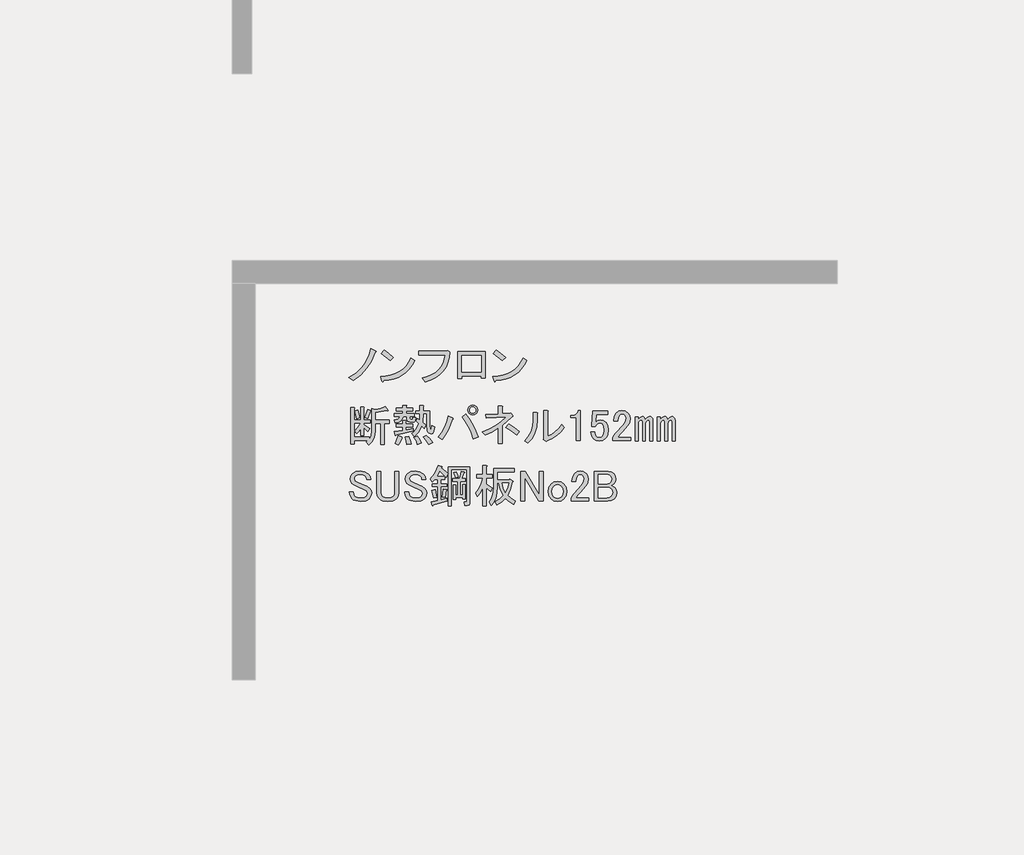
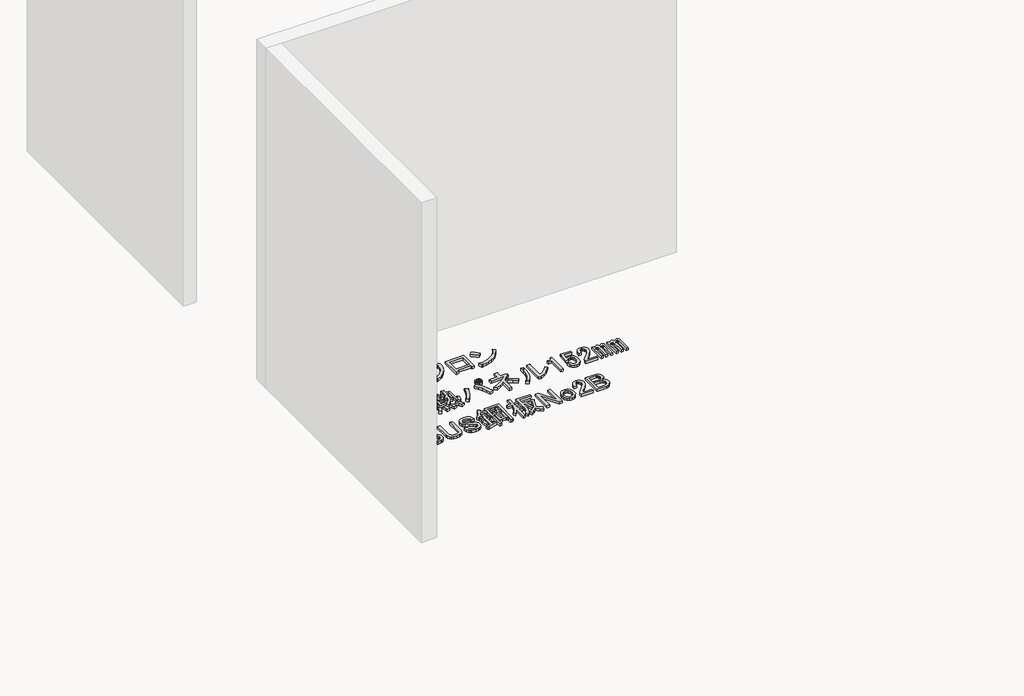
# One storey, part 38 of 117: 1 proxy.
"""IFC4 building model written with IfcOpenShell, lengths in millimetres."""

from ifc_helpers import new_model, si_unit, frame, origin, place, context, project, spatial, polyline, outline, extrude, element, save

model = new_model("IFC4")

# Units and contexts
model_context = context("Model", 3, world=origin())
ifc_project = project(units=[si_unit("LENGTHUNIT", "METRE", prefix="MILLI")], contexts=[model_context])

# Site, building, storey
site = spatial("IfcSite", under=ifc_project)
building = spatial("IfcBuilding", under=site)
storey = spatial("IfcBuildingStorey", under=building, Name="レベル 1", Elevation=500.0)

# Proxy
placement = place(None, origin())
element("IfcBuildingElementProxy", 1, Name="200㎜\u3000MS Pゴシック", ObjectType="200㎜\u3000MS Pゴシック", at=placement, inside=storey, context=model_context, shape_type="SweptSolid", body=[
    extrude(outline(polyline([(8943.6706985, -12607.0496882), (8918.0952502, -12666.8215225), (8889.646156, -12712.7998566), (8847.9782907, -12758.2034615), (8798.8389462, -12795.560858), (8771.2519457, -12773.7211493), (8818.9544673, -12743.2605029), (8858.6107805, -12704.7536481), (8875.9963381, -12680.8305462), (8891.3703435, -12652.7406577), (8904.7327969, -12620.4839827), (8916.0836981, -12584.0605212), (8947.1190736, -12597.8540214), (8950.2800841, -12602.4518548), (8943.6706985, -12607.0496882)])), frame((0.0, 0.0, 500.0), z_axis=(0.0, 0.0, 1.0), x_axis=(1.0, 0.0, 0.0)), (0.0, 0.0, 1.0), 25.0),
    extrude(outline(polyline([(9043.3977052, -12662.2236891), (8984.7753292, -12615.0958967), (9004.3161212, -12590.9572713), (9031.6157571, -12610.7854279), (9065.2374138, -12640.3839804), (9043.3977052, -12662.2236891)])), frame((0.0, 0.0, 500.0), z_axis=(0.0, 0.0, 1.0), x_axis=(1.0, 0.0, 0.0)), (0.0, 0.0, 1.0), 25.0),
    extrude(outline(polyline([(9205.4713328, -12662.2236891), (9188.947869, -12691.965924), (9169.8381239, -12717.9724192), (9148.1420975, -12740.2431748), (9123.8597898, -12758.7781907), (9096.9912008, -12773.577467), (9067.5363306, -12784.6410036), (9035.495179, -12791.9688006), (9000.8677461, -12795.560858), (8995.1204544, -12803.6070664), (8989.3731626, -12797.8597747), (8980.1774958, -12767.9738575), (9016.0082679, -12765.2977748), (9048.7857912, -12758.9937141), (9078.5100658, -12749.0616756), (9105.1810916, -12735.5016591), (9128.7988687, -12718.3136646), (9149.363397, -12697.4976923), (9166.8746766, -12673.053742), (9181.3327074, -12644.9818138), (9205.4713328, -12662.2236891)])), frame((0.0, 0.0, 500.0), z_axis=(0.0, 0.0, 1.0), x_axis=(1.0, 0.0, 0.0)), (0.0, 0.0, 1.0), 25.0),
    extrude(outline(polyline([(9256.2314136, -12777.1695243), (9290.014713, -12767.4889298), (9319.5234641, -12755.1142922), (9344.757667, -12740.0456116), (9365.7173217, -12722.282888), (9382.402428, -12701.8261214), (9394.8129862, -12678.6753118), (9402.9489961, -12652.8304591), (9406.8104577, -12624.2915635), (9234.3917049, -12624.2915635), (9234.3917049, -12599.0034798), (9409.1093744, -12599.0034798), (9425.2017914, -12595.5551047), (9437.8458332, -12607.0496882), (9434.325617, -12643.5449909), (9426.0638851, -12676.5919185), (9413.0606375, -12706.1904711), (9395.3158742, -12732.3406486), (9372.8295952, -12755.042451), (9345.6018005, -12774.2958784), (9313.6324901, -12790.1009308), (9276.921664, -12802.4576081), (9256.2314136, -12777.1695243)])), frame((0.0, 0.0, 500.0), z_axis=(0.0, 0.0, 1.0), x_axis=(1.0, 0.0, 0.0)), (0.0, 0.0, 1.0), 25.0),
    extrude(outline(polyline([(9670.955987, -12776.020066), (9644.5184449, -12776.020066), (9644.5184449, -12763.3760241), (9516.9285679, -12763.3760241), (9516.9285679, -12781.7673577), (9490.4910258, -12781.7673577), (9490.4910258, -12602.4518548), (9670.955987, -12602.4518548), (9670.955987, -12776.020066)]), holes=[polyline([(9516.9285679, -12627.7399386), (9516.9285679, -12738.0879404), (9644.5184449, -12738.0879404), (9644.5184449, -12627.7399386), (9516.9285679, -12627.7399386)])]), frame((0.0, 0.0, 500.0), z_axis=(0.0, 0.0, 1.0), x_axis=(1.0, 0.0, 0.0)), (0.0, 0.0, 1.0), 25.0),
    extrude(outline(polyline([(9947.0099049, -12662.2236891), (9930.4864411, -12691.965924), (9911.376696, -12717.9724192), (9889.6806696, -12740.2431748), (9865.3983619, -12758.7781907), (9838.5297729, -12773.577467), (9809.0749026, -12784.6410036), (9777.0337511, -12791.9688006), (9742.4063182, -12795.560858), (9736.6590264, -12803.6070664), (9730.9117347, -12797.8597747), (9721.7160679, -12767.9738575), (9757.5468399, -12765.2977748), (9790.3243633, -12758.9937141), (9820.0486378, -12749.0616756), (9846.7196637, -12735.5016591), (9870.3374407, -12718.3136646), (9890.9019691, -12697.4976923), (9908.4132486, -12673.053742), (9922.8712795, -12644.9818138), (9947.0099049, -12662.2236891)])), frame((0.0, 0.0, 500.0), z_axis=(0.0, 0.0, 1.0), x_axis=(1.0, 0.0, 0.0)), (0.0, 0.0, 1.0), 25.0),
    extrude(outline(polyline([(9784.9362772, -12662.2236891), (9726.3139013, -12615.0958967), (9745.8546933, -12590.9572713), (9773.1543291, -12610.7854279), (9806.7759859, -12640.3839804), (9784.9362772, -12662.2236891)])), frame((0.0, 0.0, 500.0), z_axis=(0.0, 0.0, 1.0), x_axis=(1.0, 0.0, 0.0)), (0.0, 0.0, 1.0), 25.0),
    extrude(outline(polyline([(8877.0021141, -13039.2345221), (8894.2439894, -12986.3594379), (8914.9342397, -12992.1067296), (8916.6584273, -12995.2677401), (8912.635323, -12997.8540214), (8895.3934477, -13046.1312722), (8877.0021141, -13039.2345221)])), frame((0.0, 0.0, 500.0), z_axis=(0.0, 0.0, 1.0), x_axis=(1.0, 0.0, 0.0)), (0.0, 0.0, 1.0), 25.0),
    extrude(outline(polyline([(9031.0295333, -12990.9572713), (9029.3053458, -12995.5551047), (9021.8338665, -12993.256188), (8944.8201569, -13005.9002299), (8944.8201569, -13055.326939), (9036.7768251, -13055.326939), (9036.7768251, -13077.1666477), (9005.7414495, -13077.1666477), (9005.7414495, -13217.4005666), (8982.7522825, -13217.4005666), (8982.7522825, -13077.1666477), (8944.8201569, -13077.1666477), (8944.8201569, -13126.5933568), (8942.2338756, -13154.3958807), (8934.4750317, -13179.1810764), (8921.5436253, -13200.948944), (8903.4396562, -13219.6994833), (8886.1977809, -13200.1586914), (8896.5429061, -13190.9630245), (8806.8851546, -13190.9630245), (8806.8851546, -13212.8027332), (8783.8959876, -13212.8027332), (8783.8959876, -12973.715396), (8805.7356963, -12973.715396), (8810.6208943, -12976.0143127), (8806.8851546, -12980.6121461), (8806.8851546, -13056.4763974), (8849.4151137, -13056.4763974), (8849.4151137, -12969.1175626), (8867.8064473, -12969.1175626), (8872.6916453, -12971.4164793), (8868.9559057, -12976.0143127), (8868.9559057, -13056.4763974), (8912.635323, -13056.4763974), (8912.635323, -13074.867731), (8868.9559057, -13074.867731), (8868.9559057, -13084.0633978), (8909.186948, -13110.5009399), (8895.3934477, -13132.3406486), (8868.9559057, -13105.9031065), (8868.9559057, -13158.7781907), (8849.4151137, -13158.7781907), (8849.4151137, -13110.5009399), (8836.1963426, -13130.3290965), (8821.8281132, -13146.1341488), (8809.1840713, -13127.7428152), (8831.02378, -13103.6041898), (8848.2656553, -13074.867731), (8806.8851546, -13074.867731), (8806.8851546, -13169.1233159), (8904.5891146, -13169.1233159), (8904.5891146, -13182.9168161), (8917.520521, -13158.7781907), (8921.8309898, -13125.4438985), (8921.8309898, -12980.6121461), (8943.6706985, -12986.3594379), (8979.8786366, -12978.8879586), (9010.339283, -12965.6691875), (9031.0295333, -12990.9572713)])), frame((0.0, 0.0, 500.0), z_axis=(0.0, 0.0, 1.0), x_axis=(1.0, 0.0, 0.0)), (0.0, 0.0, 1.0), 25.0),
    extrude(outline(polyline([(8822.9775716, -13047.2807305), (8810.3335297, -12996.7045631), (8829.8743217, -12989.8078129), (8837.6331656, -13013.9464383), (8842.5183636, -13040.3839804), (8822.9775716, -13047.2807305)])), frame((0.0, 0.0, 500.0), z_axis=(0.0, 0.0, 1.0), x_axis=(1.0, 0.0, 0.0)), (0.0, 0.0, 1.0), 25.0),
    extrude(outline(polyline([(9121.8367431, -13167.9738575), (9125.2851182, -13172.8590555), (9119.5378264, -13176.020066), (9109.7674304, -13201.5955143), (9098.8475761, -13220.8489417), (9075.858409, -13209.3543582), (9088.5024509, -13185.790462), (9098.8475761, -13158.7781907), (9121.8367431, -13167.9738575)])), frame((0.0, 0.0, 500.0), z_axis=(0.0, 0.0, 1.0), x_axis=(1.0, 0.0, 0.0)), (0.0, 0.0, 1.0), 25.0),
    extrude(outline(polyline([(9166.6656188, -13163.3760241), (9176.7233794, -13190.67566), (9181.6085774, -13212.8027332), (9152.8721186, -13218.550025), (9150.2858373, -13196.9976809), (9142.5269934, -13166.8243992), (9166.6656188, -13163.3760241)])), frame((0.0, 0.0, 500.0), z_axis=(0.0, 0.0, 1.0), x_axis=(1.0, 0.0, 0.0)), (0.0, 0.0, 1.0), 25.0),
    extrude(outline(polyline([(9281.611454, -13157.6287323), (9306.3248086, -13178.8937119), (9325.2908714, -13203.6070664), (9298.8533293, -13218.550025), (9279.5999019, -13188.9514724), (9260.9212037, -13169.1233159), (9281.611454, -13157.6287323)])), frame((0.0, 0.0, 500.0), z_axis=(0.0, 0.0, 1.0), x_axis=(1.0, 0.0, 0.0)), (0.0, 0.0, 1.0), 25.0),
    extrude(outline(polyline([(9222.9890781, -13216.2511083), (9214.655505, -13191.5377537), (9201.1493694, -13170.2727742), (9221.8396197, -13162.2265657), (9238.7941304, -13183.7789098), (9250.5760785, -13207.0554415), (9222.9890781, -13216.2511083)])), frame((0.0, 0.0, 500.0), z_axis=(0.0, 0.0, 1.0), x_axis=(1.0, 0.0, 0.0)), (0.0, 0.0, 1.0), 25.0),
    extrude(outline(polyline([(9083.9046175, -13153.0308989), (9081.8930654, -13157.9160969), (9078.1573257, -13156.479274), (9072.410034, -13132.3406486), (9127.5840349, -13124.2944401), (9127.5840349, -13101.3052731), (9083.9046175, -13101.3052731), (9083.9046175, -13082.9139395), (9127.5840349, -13082.9139395), (9127.5840349, -13059.9247724), (9145.9753685, -13059.9247724), (9150.8605665, -13062.2236891), (9147.1248268, -13066.8215225), (9147.1248268, -13082.9139395), (9191.9537026, -13082.9139395), (9191.9537026, -13101.3052731), (9147.1248268, -13101.3052731), (9147.1248268, -13120.8460651), (9197.7009943, -13111.6503983), (9197.7009943, -13127.7428152), (9083.9046175, -13153.0308989)])), frame((0.0, 0.0, 500.0), z_axis=(0.0, 0.0, 1.0), x_axis=(1.0, 0.0, 0.0)), (0.0, 0.0, 1.0), 25.0),
    extrude(outline(polyline([(9154.021577, -13031.1883136), (9128.7334932, -13031.1883136), (9124.1356598, -13048.6457123), (9113.7905346, -13061.9363245), (9097.6981177, -13071.0601502), (9075.858409, -13076.0171893), (9071.2605756, -13056.4763974), (9096.5486594, -13047.8554597), (9104.0201386, -13040.5276627), (9108.0432429, -13031.1883136), (9072.410034, -13031.1883136), (9072.410034, -13012.79698), (9126.4345765, -13012.79698), (9126.4345765, -12995.5551047), (9082.7551591, -12995.5551047), (9082.7551591, -12977.1637711), (9126.4345765, -12977.1637711), (9126.4345765, -12958.7724374), (9148.2742852, -12958.7724374), (9153.1594832, -12961.0713541), (9149.4237436, -12965.6691875), (9149.4237436, -12977.1637711), (9191.9537026, -12977.1637711), (9191.9537026, -12995.5551047), (9149.4237436, -12995.5551047), (9149.4237436, -13012.79698), (9202.2988277, -13012.79698), (9202.2988277, -13031.1883136), (9173.5623689, -13031.1883136), (9173.5623689, -13043.8323555), (9174.9991919, -13049.0049181), (9179.3096607, -13050.7291056), (9189.6547859, -13050.7291056), (9193.3905255, -13047.5680951), (9193.1031609, -13038.0850637), (9212.6439529, -13040.3839804), (9209.770307, -13061.9363245), (9204.4540622, -13067.3244106), (9196.551536, -13069.1204392), (9172.4129106, -13069.1204392), (9158.6194104, -13064.2352412), (9154.021577, -13049.5796472), (9154.021577, -13031.1883136)])), frame((0.0, 0.0, 500.0), z_axis=(0.0, 0.0, 1.0), x_axis=(1.0, 0.0, 0.0)), (0.0, 0.0, 1.0), 25.0),
    extrude(outline(polyline([(9285.0598291, -13013.9464383), (9263.2201204, -13013.9464383), (9258.622287, -13071.4193559), (9278.163079, -13089.8106896), (9267.8179538, -13111.6503983), (9251.7255369, -13095.5579813), (9232.4721095, -13133.2027424), (9202.2988277, -13165.6749408), (9185.0569525, -13144.9846905), (9200.1435933, -13133.0590601), (9213.2186821, -13117.9724192), (9224.2822187, -13099.7247679), (9233.3342033, -13078.316106), (9216.092328, -13063.3731475), (9224.1385364, -13046.1312722), (9237.9320367, -13056.4763974), (9240.2309534, -13013.9464383), (9212.6439529, -13013.9464383), (9212.6439529, -12995.5551047), (9240.2309534, -12995.5551047), (9240.2309534, -12961.0713541), (9262.0706621, -12961.0713541), (9266.95586, -12963.3702708), (9263.2201204, -12967.9681043), (9263.2201204, -12995.5551047), (9304.6006211, -12995.5551047), (9304.6006211, -13092.1096063), (9308.0489961, -13116.2482317), (9311.2818477, -13118.2597838), (9314.0836525, -13115.0987733), (9318.3941213, -13093.2590646), (9337.9349133, -13100.1558147), (9333.408921, -13126.9525626), (9325.578236, -13142.9731384), (9314.4428582, -13148.2175421), (9300.0027877, -13142.6857738), (9293.4652433, -13135.3579768), (9288.7955687, -13123.719711), (9285.0598291, -13087.5117729), (9285.0598291, -13013.9464383)])), frame((0.0, 0.0, 500.0), z_axis=(0.0, 0.0, 1.0), x_axis=(1.0, 0.0, 0.0)), (0.0, 0.0, 1.0), 25.0),
    extrude(outline(polyline([(9543.6879583, -13016.245355), (9570.3410238, -13052.9561812), (9592.8273029, -13090.6727833), (9611.1467953, -13129.3951616), (9625.2995013, -13169.1233159), (9594.2641258, -13179.468441), (9578.8182792, -13136.3637528), (9561.2171982, -13097.856898), (9541.4608827, -13063.9478766), (9519.5493329, -13034.6366887), (9543.6879583, -13016.245355)])), frame((0.0, 0.0, 500.0), z_axis=(0.0, 0.0, 1.0), x_axis=(1.0, 0.0, 0.0)), (0.0, 0.0, 1.0), 25.0),
    extrude(outline(polyline([(9456.3291235, -13042.6828971), (9460.3522278, -13048.1428243), (9454.0302068, -13053.0280223), (9442.1045764, -13088.4457078), (9427.0179356, -13122.282888), (9408.7702842, -13154.539563), (9387.3616224, -13185.2157328), (9360.9240803, -13167.9738575), (9384.1287708, -13136.5074351), (9403.1666748, -13103.0294606), (9418.0377922, -13067.539934), (9428.7421231, -13030.0388553), (9456.3291235, -13042.6828971)])), frame((0.0, 0.0, 500.0), z_axis=(0.0, 0.0, 1.0), x_axis=(1.0, 0.0, 0.0)), (0.0, 0.0, 1.0), 25.0),
    extrude(outline(polyline([(9589.6662924, -13021.9926468), (9577.0222505, -13019.6937301), (9566.6771253, -13012.79698), (9559.7803752, -13002.4518548), (9557.4814585, -12989.8078129), (9559.7803752, -12977.1637711), (9566.6771253, -12966.8186459), (9577.0222505, -12959.9218958), (9589.6662924, -12957.6229791), (9602.3103343, -12959.9218958), (9612.6554594, -12966.8186459), (9619.5522095, -12977.1637711), (9621.8511262, -12989.8078129), (9619.5522095, -13002.4518548), (9612.6554594, -13012.79698), (9602.3103343, -13019.6937301), (9589.6662924, -13021.9926468)]), holes=[polyline([(9589.6662924, -13010.4980633), (9597.9998654, -13009.0612403), (9604.609251, -13004.7507715), (9608.9197198, -12998.141386), (9610.3565427, -12989.8078129), (9608.9197198, -12981.4742399), (9604.609251, -12974.8648544), (9597.9998654, -12970.5543855), (9589.6662924, -12969.1175626), (9581.3327193, -12970.5543855), (9574.7233338, -12974.8648544), (9570.412865, -12981.4742399), (9568.976042, -12989.8078129), (9570.412865, -12998.141386), (9574.7233338, -13004.7507715), (9581.3327193, -13009.0612403), (9589.6662924, -13010.4980633)])]), frame((0.0, 0.0, 500.0), z_axis=(0.0, 0.0, 1.0), x_axis=(1.0, 0.0, 0.0)), (0.0, 0.0, 1.0), 25.0),
    extrude(outline(polyline([(9879.3297971, -13155.3298156), (9842.2597652, -13126.0186277), (9809.2128376, -13104.7536481), (9826.4547129, -13082.9139395), (9865.2489323, -13106.1904711), (9898.8705891, -13132.3406486), (9879.3297971, -13155.3298156)])), frame((0.0, 0.0, 500.0), z_axis=(0.0, 0.0, 1.0), x_axis=(1.0, 0.0, 0.0)), (0.0, 0.0, 1.0), 25.0),
    extrude(outline(polyline([(9833.351463, -13011.6475216), (9840.2482131, -13009.3486049), (9852.892255, -13026.5904802), (9854.0417134, -13032.6251366), (9848.2944216, -13034.6366887), (9785.0742122, -13090.9601479), (9785.0742122, -13211.6532749), (9758.6366701, -13211.6532749), (9758.6366701, -13109.3514816), (9718.4056278, -13133.4901069), (9673.5767521, -13155.3298156), (9654.0359601, -13134.6395653), (9699.5832473, -13115.1706145), (9740.8200657, -13092.3969709), (9777.7464152, -13066.3186345), (9810.362296, -13036.9356054), (9680.4735022, -13042.6828971), (9677.0251271, -13017.3948134), (9758.6366701, -13015.0958967), (9758.6366701, -12963.3702708), (9781.6258372, -12963.3702708), (9787.6604935, -12966.8186459), (9785.0742122, -12972.5659377), (9785.0742122, -13013.9464383), (9833.351463, -13011.6475216)])), frame((0.0, 0.0, 500.0), z_axis=(0.0, 0.0, 1.0), x_axis=(1.0, 0.0, 0.0)), (0.0, 0.0, 1.0), 25.0),
    extrude(outline(polyline([(9932.296838, -13193.2619413), (9957.4412394, -13164.0225944), (9975.4015262, -13131.4785548), (9986.1776982, -13095.6298225), (9989.7697556, -13056.4763974), (9989.7697556, -13004.7507715), (10013.908381, -13004.7507715), (10019.6556727, -13008.1991466), (10016.2072977, -13013.9464383), (10016.2072977, -13055.326939), (10012.3997169, -13101.0897496), (10000.9769745, -13141.82368), (9981.9390705, -13177.5287301), (9955.286005, -13208.2048998), (9932.296838, -13193.2619413)])), frame((0.0, 0.0, 500.0), z_axis=(0.0, 0.0, 1.0), x_axis=(1.0, 0.0, 0.0)), (0.0, 0.0, 1.0), 25.0),
    extrude(outline(polyline([(10086.3242571, -13162.2265657), (10111.1094529, -13150.0135708), (10134.8888725, -13132.9153778), (10157.6625161, -13110.9319868), (10179.4303837, -13084.0633978), (10195.5228006, -13105.9031065), (10172.246269, -13133.7056304), (10146.0960914, -13157.3413678), (10117.0722681, -13176.8103186), (10085.1747988, -13192.1124829), (10075.979132, -13196.7103163), (10057.5877983, -13182.9168161), (10059.886715, -13177.1695243), (10059.886715, -12992.1067296), (10084.0253404, -12992.1067296), (10089.7726322, -12995.5551047), (10086.3242571, -13001.3023965), (10086.3242571, -13162.2265657)])), frame((0.0, 0.0, 500.0), z_axis=(0.0, 0.0, 1.0), x_axis=(1.0, 0.0, 0.0)), (0.0, 0.0, 1.0), 25.0),
    extrude(outline(polyline([(10274.8354269, -13015.0958967), (10282.8816353, -13004.1760423), (10286.3300104, -12992.1067296), (10300.1235106, -12992.1067296), (10300.1235106, -13190.9630245), (10273.6859685, -13190.9630245), (10273.6859685, -13038.0850637), (10239.202218, -13038.0850637), (10239.202218, -13024.2915635), (10249.5473431, -13024.2915635), (10263.9155725, -13021.9926468), (10274.8354269, -13015.0958967)])), frame((0.0, 0.0, 500.0), z_axis=(0.0, 0.0, 1.0), x_axis=(1.0, 0.0, 0.0)), (0.0, 0.0, 1.0), 25.0),
    extrude(outline(polyline([(10384.0339703, -12995.5551047), (10482.8873886, -12995.5551047), (10482.8873886, -13017.3948134), (10405.873679, -13017.3948134), (10405.873679, -13020.8431884), (10402.4253039, -13063.3731475), (10401.2758456, -13070.2698976), (10416.7935333, -13059.9247724), (10433.4606795, -13056.4763974), (10454.4382944, -13060.212137), (10471.3928051, -13071.4193559), (10483.4621178, -13091.2475125), (10487.485222, -13118.5471484), (10482.3126594, -13153.0308989), (10475.8469562, -13166.8243992), (10466.7949717, -13178.3189827), (10448.6910026, -13190.3882954), (10426.5639293, -13194.4113996), (10405.5863144, -13190.67566), (10388.6318037, -13179.468441), (10376.562491, -13160.7897428), (10370.2404701, -13134.6395653), (10396.6780122, -13134.6395653), (10400.7011164, -13153.3182635), (10408.1725957, -13165.6749408), (10415.9314396, -13170.8475034), (10425.414471, -13172.5716909), (10437.7711483, -13170.5601388), (10447.2541797, -13164.5254825), (10456.7372111, -13147.5709718), (10459.8982215, -13121.9955234), (10457.3119403, -13097.856898), (10449.5530964, -13082.9139395), (10442.0816171, -13077.7413769), (10433.4606795, -13076.0171893), (10420.529273, -13078.6034706), (10409.3220541, -13086.3623145), (10400.1263872, -13096.7074397), (10377.1372202, -13096.7074397), (10378.2866786, -13088.6612312), (10384.0339703, -13000.1529381), (10384.0339703, -12995.5551047)])), frame((0.0, 0.0, 500.0), z_axis=(0.0, 0.0, 1.0), x_axis=(1.0, 0.0, 0.0)), (0.0, 0.0, 1.0), 25.0),
    extrude(outline(polyline([(10521.9689726, -13062.2236891), (10526.566806, -13030.900949), (10540.3603062, -13008.1991466), (10556.7400877, -12996.9919276), (10575.9935151, -12993.256188), (10598.6953176, -12996.9919276), (10616.2245574, -13008.1991466), (10627.4317764, -13024.8662927), (10631.167516, -13044.9818138), (10626.8570472, -13070.8446268), (10613.9256407, -13093.2590646), (10580.5913485, -13131.1911902), (10562.2000149, -13151.8814406), (10548.4065147, -13170.2727742), (10634.6158911, -13170.2727742), (10634.6158911, -13192.1124829), (10517.3711392, -13192.1124829), (10517.3711392, -13172.5716909), (10523.4057955, -13158.7781907), (10536.9119311, -13140.3868571), (10584.0397236, -13088.6612312), (10598.6953176, -13067.3962517), (10603.5805156, -13044.9818138), (10601.2815989, -13032.337772), (10594.3848487, -13021.9926468), (10586.6260049, -13016.8200842), (10577.1429735, -13015.0958967), (10568.5220358, -13016.8200842), (10561.0505565, -13021.9926468), (10551.5675251, -13038.3724283), (10548.4065147, -13062.2236891), (10521.9689726, -13062.2236891)])), frame((0.0, 0.0, 500.0), z_axis=(0.0, 0.0, 1.0), x_axis=(1.0, 0.0, 0.0)), (0.0, 0.0, 1.0), 25.0),
    extrude(outline(polyline([(10905.8880621, -13032.337772), (10914.2216352, -13033.7745949), (10920.8310207, -13038.0850637), (10926.0035833, -13046.7060014), (10927.7277708, -13058.7753141), (10927.7277708, -13193.2619413), (10908.1869788, -13193.2619413), (10908.1869788, -13069.1204392), (10905.6006976, -13059.6374078), (10897.8418537, -13056.4763974), (10887.4967285, -13061.0742308), (10881.4620722, -13069.6951684), (10879.45052, -13079.4655644), (10879.45052, -13193.2619413), (10859.9097281, -13193.2619413), (10859.9097281, -13069.1204392), (10857.3234468, -13059.6374078), (10849.5646029, -13056.4763974), (10839.2194777, -13061.0742308), (10833.1848214, -13069.6951684), (10831.1732693, -13079.4655644), (10831.1732693, -13193.2619413), (10811.6324773, -13193.2619413), (10811.6324773, -13035.786147), (10831.1732693, -13035.786147), (10831.1732693, -13053.0280223), (10843.242582, -13037.5103346), (10856.461353, -13032.337772), (10865.6570198, -13033.7745949), (10872.5537699, -13038.0850637), (10879.45052, -13051.878564), (10892.3819265, -13037.22297), (10905.8880621, -13032.337772)])), frame((0.0, 0.0, 500.0), z_axis=(0.0, 0.0, 1.0), x_axis=(1.0, 0.0, 0.0)), (0.0, 0.0, 1.0), 25.0),
    extrude(outline(polyline([(10684.0426002, -13193.2619413), (10664.5018082, -13193.2619413), (10664.5018082, -13035.786147), (10684.0426002, -13035.786147), (10684.0426002, -13053.0280223), (10696.1119129, -13037.5103346), (10709.3306839, -13032.337772), (10718.5263508, -13033.7745949), (10725.4231009, -13038.0850637), (10732.319851, -13051.878564), (10745.2512574, -13037.22297), (10758.7573931, -13032.337772), (10767.0909661, -13033.7745949), (10773.7003517, -13038.0850637), (10778.8729142, -13046.7060014), (10780.5971018, -13058.7753141), (10780.5971018, -13193.2619413), (10761.0563098, -13193.2619413), (10761.0563098, -13069.1204392), (10758.4700285, -13059.6374078), (10750.7111846, -13056.4763974), (10740.3660594, -13061.0742308), (10734.3314031, -13069.6951684), (10732.319851, -13079.4655644), (10732.319851, -13193.2619413), (10712.779059, -13193.2619413), (10712.779059, -13069.1204392), (10710.1927777, -13059.6374078), (10702.4339338, -13056.4763974), (10692.0888087, -13061.0742308), (10686.0541523, -13069.6951684), (10684.0426002, -13079.4655644), (10684.0426002, -13193.2619413)])), frame((0.0, 0.0, 500.0), z_axis=(0.0, 0.0, 1.0), x_axis=(1.0, 0.0, 0.0)), (0.0, 0.0, 1.0), 25.0),
    extrude(outline(polyline([(8779.2981542, -13447.2807305), (8783.3212584, -13426.8778448), (8795.3905711, -13409.3486049), (8815.7934569, -13397.2792922), (8844.8172803, -13393.256188), (8876.1400204, -13397.8540214), (8898.8418228, -13411.6475216), (8910.9111355, -13429.1767615), (8914.9342397, -13449.5796472), (8888.4966976, -13449.5796472), (8886.1977809, -13436.9356054), (8879.3010308, -13426.5904802), (8866.0822598, -13418.8316363), (8847.116197, -13416.245355), (8826.7133112, -13418.5442717), (8813.7819048, -13425.4410219), (8807.7472484, -13434.0619595), (8805.7356963, -13443.8323555), (8810.3335297, -13458.7753141), (8831.02378, -13470.2698976), (8890.7956143, -13496.7074397), (8908.0374896, -13508.2020232), (8917.520521, -13521.9955234), (8920.6815315, -13538.0879404), (8916.6584273, -13559.3529199), (8904.5891146, -13577.1695243), (8894.6031951, -13584.7128448), (8881.8873121, -13590.1009308), (8848.2656553, -13594.4113996), (8814.6439985, -13589.238837), (8801.0660217, -13582.7731338), (8789.6432794, -13573.7211493), (8778.4360604, -13555.3298156), (8774.7003208, -13530.0417319), (8801.1378629, -13530.0417319), (8803.4367796, -13547.8583363), (8810.3335297, -13559.927649), (8826.4259466, -13569.4106804), (8849.4151137, -13572.5716909), (8870.3927286, -13569.698045), (8885.0483226, -13561.0771074), (8891.9450727, -13551.8814406), (8894.2439894, -13542.6857738), (8892.5198019, -13533.2027424), (8887.3472393, -13525.4438985), (8868.9559057, -13513.949315), (8839.0699885, -13500.1558147), (8805.7356963, -13485.2128562), (8789.6432794, -13474.867731), (8781.8844355, -13462.7984183), (8779.2981542, -13447.2807305)])), frame((0.0, 0.0, 500.0), z_axis=(0.0, 0.0, 1.0), x_axis=(1.0, 0.0, 0.0)), (0.0, 0.0, 1.0), 25.0),
    extrude(outline(polyline([(8954.7054987, -13395.5551047), (8981.1430408, -13395.5551047), (8981.1430408, -13533.4901069), (8983.7293221, -13548.1457009), (8991.488166, -13559.927649), (9007.0058537, -13569.4106804), (9028.2708332, -13572.5716909), (9049.5358128, -13569.4106804), (9065.0535005, -13559.927649), (9072.8123444, -13548.1457009), (9075.3986257, -13533.4901069), (9075.3986257, -13395.5551047), (9101.8361678, -13395.5551047), (9101.8361678, -13534.6395653), (9097.8130635, -13557.6287323), (9085.7437508, -13576.020066), (9075.2549434, -13584.0662744), (9062.1798546, -13589.8135662), (9028.2708332, -13594.4113996), (8994.3618119, -13589.8135662), (8981.2867231, -13584.0662744), (8970.7979156, -13576.020066), (8958.7286029, -13557.6287323), (8954.7054987, -13534.6395653), (8954.7054987, -13395.5551047)])), frame((0.0, 0.0, 500.0), z_axis=(0.0, 0.0, 1.0), x_axis=(1.0, 0.0, 0.0)), (0.0, 0.0, 1.0), 25.0),
    extrude(outline(polyline([(9144.1822135, -13447.2807305), (9148.2053177, -13426.8778448), (9160.2746304, -13409.3486049), (9180.6775161, -13397.2792922), (9209.7013395, -13393.256188), (9241.0240796, -13397.8540214), (9263.7258821, -13411.6475216), (9275.7951948, -13429.1767615), (9279.818299, -13449.5796472), (9253.3807569, -13449.5796472), (9251.0818402, -13436.9356054), (9244.1850901, -13426.5904802), (9230.966319, -13418.8316363), (9212.0002562, -13416.245355), (9191.5973705, -13418.5442717), (9178.665964, -13425.4410219), (9172.6313077, -13434.0619595), (9170.6197556, -13443.8323555), (9175.217589, -13458.7753141), (9195.9078393, -13470.2698976), (9255.6796736, -13496.7074397), (9272.9215489, -13508.2020232), (9282.4045803, -13521.9955234), (9285.5655908, -13538.0879404), (9281.5424865, -13559.3529199), (9269.4731738, -13577.1695243), (9259.4872544, -13584.7128448), (9246.7713714, -13590.1009308), (9213.1497146, -13594.4113996), (9179.5280578, -13589.238837), (9165.950081, -13582.7731338), (9154.5273386, -13573.7211493), (9143.3201197, -13555.3298156), (9139.5843801, -13530.0417319), (9166.0219222, -13530.0417319), (9168.3208389, -13547.8583363), (9175.217589, -13559.927649), (9191.3100059, -13569.4106804), (9214.2991729, -13572.5716909), (9235.2767879, -13569.698045), (9249.9323819, -13561.0771074), (9256.829132, -13551.8814406), (9259.1280487, -13542.6857738), (9257.4038611, -13533.2027424), (9252.2312986, -13525.4438985), (9233.8399649, -13513.949315), (9203.9540478, -13500.1558147), (9170.6197556, -13485.2128562), (9154.5273386, -13474.867731), (9146.7684948, -13462.7984183), (9144.1822135, -13447.2807305)])), frame((0.0, 0.0, 500.0), z_axis=(0.0, 0.0, 1.0), x_axis=(1.0, 0.0, 0.0)), (0.0, 0.0, 1.0), 25.0),
    extrude(outline(polyline([(9481.6631856, -13397.8540214), (9488.8473003, -13413.0843446), (9494.3072275, -13433.4872303), (9477.0653522, -13439.2345221), (9465.5707687, -13402.4518548), (9481.6631856, -13397.8540214)])), frame((0.0, 0.0, 500.0), z_axis=(0.0, 0.0, 1.0), x_axis=(1.0, 0.0, 0.0)), (0.0, 0.0, 1.0), 25.0),
    extrude(outline(polyline([(9534.5382698, -13399.0034798), (9537.1245511, -13402.4518548), (9531.0898948, -13405.9002299), (9518.4458529, -13443.8323555), (9539.1361032, -13443.8323555), (9539.1361032, -13462.2236891), (9508.1007277, -13462.2236891), (9508.1007277, -13550.7319822), (9523.0436863, -13550.7319822), (9523.0436863, -13482.9139395), (9539.1361032, -13482.9139395), (9539.1361032, -13577.1695243), (9523.0436863, -13577.1695243), (9523.0436863, -13569.1233159), (9477.0653522, -13569.1233159), (9477.0653522, -13581.7673577), (9460.9729353, -13581.7673577), (9460.9729353, -13485.2128562), (9477.0653522, -13485.2128562), (9477.0653522, -13550.7319822), (9492.0083108, -13550.7319822), (9492.0083108, -13462.2236891), (9456.3751019, -13462.2236891), (9456.3751019, -13443.8323555), (9502.353436, -13443.8323555), (9512.6985611, -13394.4056463), (9534.5382698, -13399.0034798)])), frame((0.0, 0.0, 500.0), z_axis=(0.0, 0.0, 1.0), x_axis=(1.0, 0.0, 0.0)), (0.0, 0.0, 1.0), 25.0),
    extrude(outline(polyline([(9413.8451429, -13434.6366887), (9372.4646422, -13390.9572713), (9350.6249335, -13430.0388553), (9405.7989344, -13430.0388553), (9405.7989344, -13448.4301889), (9379.3613923, -13448.4301889), (9379.3613923, -13477.1666477), (9417.2935179, -13477.1666477), (9417.2935179, -13495.5579813), (9379.3613923, -13495.5579813), (9379.3613923, -13582.9168161), (9418.4429763, -13572.5716909), (9420.741893, -13592.1124829), (9328.7852248, -13617.4005666), (9326.4863081, -13623.1478584), (9321.8884747, -13619.6994833), (9314.9917246, -13596.7103163), (9359.8206003, -13587.5146495), (9359.8206003, -13495.5579813), (9321.8884747, -13495.5579813), (9321.8884747, -13477.1666477), (9359.8206003, -13477.1666477), (9359.8206003, -13448.4301889), (9337.9808916, -13448.4301889), (9323.037933, -13466.8215225), (9310.3938912, -13446.1312722), (9338.5556208, -13408.4865112), (9363.2689754, -13357.6229791), (9385.1086841, -13363.3702708), (9388.5570591, -13367.1060105), (9382.8097674, -13369.1175626), (9381.660309, -13372.5659377), (9426.4891847, -13410.4980633), (9413.8451429, -13434.6366887)])), frame((0.0, 0.0, 500.0), z_axis=(0.0, 0.0, 1.0), x_axis=(1.0, 0.0, 0.0)), (0.0, 0.0, 1.0), 25.0),
    extrude(outline(polyline([(9428.7881014, -13365.6691875), (9569.0220204, -13365.6691875), (9569.0220204, -13605.9059831), (9565.2862807, -13617.1132021), (9554.0790618, -13620.8489417), (9537.9866449, -13620.8489417), (9533.3888115, -13599.009233), (9544.883395, -13599.009233), (9548.33177, -13597.8597747), (9549.4812284, -13594.4113996), (9549.4812284, -13384.0605212), (9448.3288934, -13384.0605212), (9448.3288934, -13623.1478584), (9428.7881014, -13623.1478584), (9428.7881014, -13365.6691875)])), frame((0.0, 0.0, 500.0), z_axis=(0.0, 0.0, 1.0), x_axis=(1.0, 0.0, 0.0)), (0.0, 0.0, 1.0), 25.0),
    extrude(outline(polyline([(9417.2935179, -13513.949315), (9419.8797992, -13517.1103254), (9416.1440596, -13519.6966067), (9408.0978511, -13566.8243992), (9389.7065175, -13564.5254825), (9395.4538092, -13510.5009399), (9417.2935179, -13513.949315)])), frame((0.0, 0.0, 500.0), z_axis=(0.0, 0.0, 1.0), x_axis=(1.0, 0.0, 0.0)), (0.0, 0.0, 1.0), 25.0),
    extrude(outline(polyline([(9340.2798083, -13515.0987733), (9351.7743918, -13566.8243992), (9331.0841415, -13572.5716909), (9319.589558, -13520.8460651), (9340.2798083, -13515.0987733)])), frame((0.0, 0.0, 500.0), z_axis=(0.0, 0.0, 1.0), x_axis=(1.0, 0.0, 0.0)), (0.0, 0.0, 1.0), 25.0),
    extrude(outline(polyline([(9740.2913148, -13594.4113996), (9769.0277736, -13577.1695243), (9790.8674823, -13555.3298156), (9773.0508779, -13513.3745858), (9763.2804819, -13472.5688143), (9750.63644, -13472.5688143), (9750.63644, -13496.7074397), (9748.193841, -13538.4471461), (9740.866044, -13572.8590555), (9728.653049, -13599.9431679), (9711.554856, -13619.6994833), (9697.7613558, -13596.7103163), (9710.8364446, -13579.3247587), (9720.1757937, -13557.0540032), (9725.7794031, -13529.8980496), (9727.647273, -13497.856898), (9727.647273, -13377.1637711), (9864.4328169, -13377.1637711), (9864.4328169, -13399.0034798), (9750.63644, -13399.0034798), (9750.63644, -13450.7291056), (9829.9490663, -13450.7291056), (9835.6963581, -13444.9818138), (9855.23715, -13458.7753141), (9856.673973, -13462.5110537), (9851.788775, -13466.8215225), (9839.4320977, -13513.3745858), (9820.7533995, -13554.1803573), (9839.7194623, -13572.5716909), (9871.329567, -13590.9630245), (9862.1339002, -13615.1016499), (9834.2595351, -13599.009233), (9805.8104409, -13573.7211493), (9781.3844509, -13598.1471392), (9749.4869817, -13618.550025), (9740.2913148, -13594.4113996)]), holes=[polyline([(9785.1201906, -13472.5688143), (9793.166399, -13505.6157419), (9805.8104409, -13533.4901069), (9818.4544828, -13507.3399294), (9826.5006912, -13472.5688143), (9785.1201906, -13472.5688143)])]), frame((0.0, 0.0, 500.0), z_axis=(0.0, 0.0, 1.0), x_axis=(1.0, 0.0, 0.0)), (0.0, 0.0, 1.0), 25.0),
    extrude(outline(polyline([(9657.5303135, -13623.1478584), (9657.5303135, -13503.6041898), (9639.713709, -13537.8005758), (9620.7476462, -13559.927649), (9609.2530627, -13539.2373987), (9626.494938, -13516.5355963), (9640.2884382, -13492.1096063), (9650.6335634, -13465.9594288), (9657.5303135, -13438.0850637), (9616.1498128, -13438.0850637), (9616.1498128, -13416.245355), (9657.5303135, -13416.245355), (9657.5303135, -13356.4735207), (9679.3700222, -13356.4735207), (9684.2552202, -13358.7724374), (9680.5194805, -13363.3702708), (9680.5194805, -13416.245355), (9718.4516061, -13416.245355), (9718.4516061, -13438.0850637), (9680.5194805, -13438.0850637), (9680.5194805, -13478.316106), (9718.4516061, -13504.7536481), (9708.106481, -13527.7428152), (9680.5194805, -13504.7536481), (9680.5194805, -13623.1478584), (9657.5303135, -13623.1478584)])), frame((0.0, 0.0, 500.0), z_axis=(0.0, 0.0, 1.0), x_axis=(1.0, 0.0, 0.0)), (0.0, 0.0, 1.0), 25.0),
    extrude(outline(polyline([(9908.1122342, -13395.5551047), (9936.848693, -13395.5551047), (10028.8053612, -13550.7319822), (10028.8053612, -13395.5551047), (10055.2429033, -13395.5551047), (10055.2429033, -13592.1124829), (10026.5064445, -13592.1124829), (9934.5497763, -13436.9356054), (9934.5497763, -13592.1124829), (9908.1122342, -13592.1124829), (9908.1122342, -13395.5551047)])), frame((0.0, 0.0, 500.0), z_axis=(0.0, 0.0, 1.0), x_axis=(1.0, 0.0, 0.0)), (0.0, 0.0, 1.0), 25.0),
    extrude(outline(polyline([(10088.3932822, -13527.7428152), (10093.2784802, -13500.4431793), (10107.9340742, -13478.316106), (10127.1875015, -13465.3846996), (10150.4640332, -13461.0742308), (10173.7405648, -13465.3846996), (10192.9939922, -13478.316106), (10207.6495862, -13500.4431793), (10212.5347842, -13527.7428152), (10207.6495862, -13555.042451), (10192.9939922, -13577.1695243), (10173.7405648, -13590.1009308), (10150.4640332, -13594.4113996), (10127.1875015, -13590.1009308), (10107.9340742, -13577.1695243), (10093.2784802, -13555.042451), (10088.3932822, -13527.7428152)]), holes=[polyline([(10150.4640332, -13481.7644811), (10137.8199913, -13484.0633978), (10127.4748661, -13490.9601479), (10117.129741, -13507.0525648), (10113.6813659, -13527.7428152), (10116.8423764, -13548.1457009), (10126.3254078, -13563.3760241), (10137.5326267, -13571.134868), (10150.4640332, -13573.7211493), (10163.3954396, -13571.134868), (10174.6026586, -13563.3760241), (10184.08569, -13548.1457009), (10187.2467004, -13527.7428152), (10183.7983254, -13507.0525648), (10173.4532002, -13490.9601479), (10163.1080751, -13484.0633978), (10150.4640332, -13481.7644811)])]), frame((0.0, 0.0, 500.0), z_axis=(0.0, 0.0, 1.0), x_axis=(1.0, 0.0, 0.0)), (0.0, 0.0, 1.0), 25.0),
    extrude(outline(polyline([(10245.3633147, -13462.2236891), (10249.9611481, -13430.900949), (10263.7546484, -13408.1991466), (10280.1344299, -13396.9919276), (10299.3878573, -13393.256188), (10322.0896597, -13396.9919276), (10339.6188996, -13408.1991466), (10350.8261185, -13424.8662927), (10354.5618582, -13444.9818138), (10350.2513893, -13470.8446268), (10337.3199829, -13493.2590646), (10303.9856907, -13531.1911902), (10285.594357, -13551.8814406), (10271.8008568, -13570.2727742), (10358.0102332, -13570.2727742), (10358.0102332, -13592.1124829), (10240.7654813, -13592.1124829), (10240.7654813, -13572.5716909), (10246.8001377, -13558.7781907), (10260.3062733, -13540.3868571), (10307.4340657, -13488.6612312), (10322.0896597, -13467.3962517), (10326.9748577, -13444.9818138), (10324.675941, -13432.337772), (10317.7791909, -13421.9926468), (10310.020347, -13416.8200842), (10300.5373156, -13415.0958967), (10291.916378, -13416.8200842), (10284.4448987, -13421.9926468), (10274.9618673, -13438.3724283), (10271.8008568, -13462.2236891), (10245.3633147, -13462.2236891)])), frame((0.0, 0.0, 500.0), z_axis=(0.0, 0.0, 1.0), x_axis=(1.0, 0.0, 0.0)), (0.0, 0.0, 1.0), 25.0),
    extrude(outline(polyline([(10392.4939838, -13395.5551047), (10484.4506519, -13395.5551047), (10505.4282669, -13399.2908443), (10522.3827776, -13410.4980633), (10532.7279027, -13426.5904802), (10536.1762778, -13447.2807305), (10533.0152673, -13464.2352412), (10523.5322359, -13478.316106), (10506.2903606, -13488.6612312), (10528.1300693, -13501.3052731), (10538.4751945, -13516.8229608), (10541.9235696, -13535.7890237), (10537.6131007, -13559.0655553), (10524.6816943, -13578.3189827), (10507.439819, -13588.6641078), (10483.3011936, -13592.1124829), (10392.4939838, -13592.1124829), (10392.4939838, -13395.5551047)]), holes=[polyline([(10418.9315259, -13417.3948134), (10418.9315259, -13478.316106), (10481.0022769, -13478.316106), (10491.6347666, -13476.3045539), (10500.5430689, -13470.2698976), (10507.439819, -13459.6374078), (10509.7387357, -13446.1312722), (10507.439819, -13434.3493241), (10500.5430689, -13424.2915635), (10492.784225, -13419.1190009), (10483.3011936, -13417.3948134), (10418.9315259, -13417.3948134)]), polyline([(10418.9315259, -13500.1558147), (10418.9315259, -13570.2727742), (10477.5539018, -13570.2727742), (10492.784225, -13567.9738575), (10503.9914439, -13561.0771074), (10511.7502878, -13549.5825239), (10514.3365691, -13535.7890237), (10512.0376524, -13521.4207942), (10505.1409023, -13510.5009399), (10493.0715896, -13502.742096), (10477.5539018, -13500.1558147), (10418.9315259, -13500.1558147)])]), frame((0.0, 0.0, 500.0), z_axis=(0.0, 0.0, 1.0), x_axis=(1.0, 0.0, 0.0)), (0.0, 0.0, 1.0), 25.0),
])

save(model, "model.ifc")
